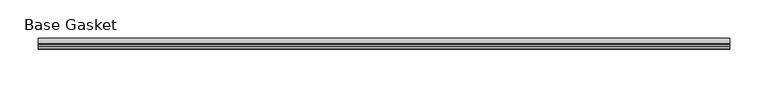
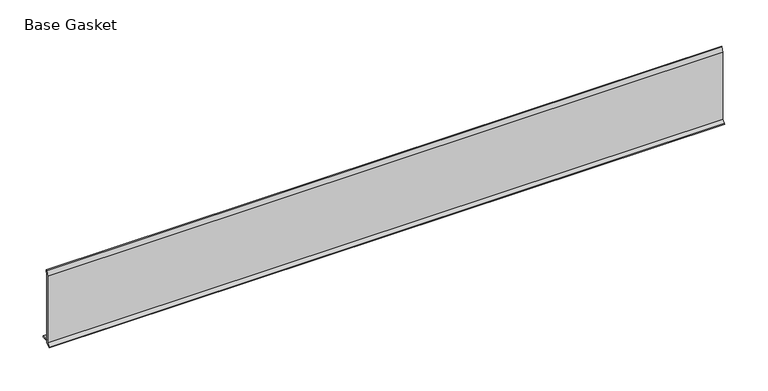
"""IFC4 building model written with IfcOpenShell, lengths in millimetres: furniture geometry, Gasket-Teknion-FHGB-AI_Healthcare-R2021 : Base Gasket."""

from ifc_helpers import new_model, si_unit, frame, origin, place, context, project, spatial, polyline, outline, extrude, source, transform, mapped, element, save


def base_gasket_62a313f0(model_context):
    return source(origin(), model_context, "Body", "SweptSolid", [
        extrude(outline(polyline([(-3.7283812, 98.4568417), (-1.1891543, 104.587663), (-0.6755308, 105.2002997), (-0.6755308, 104.4162708), (-2.2043812, 98.4568417), (-2.2043812, 96.8693477), (-1.4106313, 96.8693477), (-1.4106313, 71.4693447), (-2.2043812, 71.4693447), (-2.2043812, 7.9398773), (6.2405171, 7.9398773), (6.2405171, 6.3818476), (-2.1334222, 6.3818476), (-2.2043812, 4.3498477), (-6.8281054, 0.3520979), (-7.8482342, 0.0), (-7.4222115, 0.6560174), (-3.7283812, 4.3498477), (-3.7283812, 98.4568417)])), frame((-1527.8982117, 0.0, 0.0), z_axis=(1.0, 0.0, 0.0), x_axis=(0.0, 1.0, 0.0)), (0.0, 0.0, 1.0), 900.0222326),
    ])


if __name__ == "__main__":
    model = new_model("IFC4")
    model_context = context("Model", 3, world=origin())
    ifc_project = project(units=[si_unit("LENGTHUNIT", "METRE", prefix="MILLI")], contexts=[model_context])
    site = spatial("IfcSite", under=ifc_project)
    building = spatial("IfcBuilding", under=site)
    placement = place(None, origin())
    base_gasket_shape = base_gasket_62a313f0(model_context)
    element("IfcFurniture", 1, ObjectType="Gasket-Teknion-FHGB-AI_Healthcare-R2021 : Base Gasket", at=placement, inside=building, context=model_context, shape_type="MappedRepresentation", body=[
        mapped(base_gasket_shape, transform((0.0, 0.0, 0.0), x_axis=(1.0, 0.0, 0.0), y_axis=(0.0, 1.0, 0.0), z_axis=(0.0, 0.0, 1.0))),
    ])
    save(model, "model.ifc")
